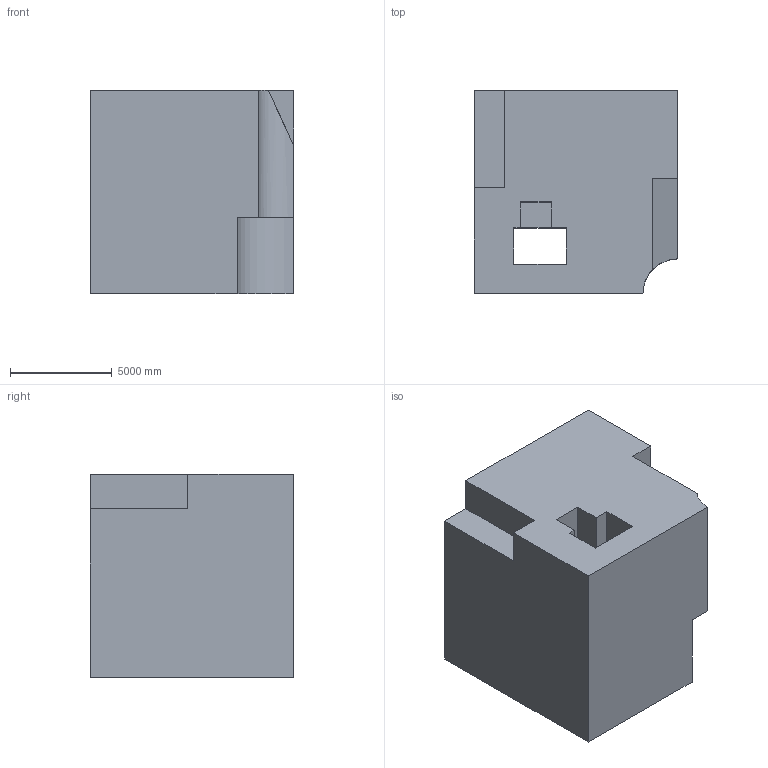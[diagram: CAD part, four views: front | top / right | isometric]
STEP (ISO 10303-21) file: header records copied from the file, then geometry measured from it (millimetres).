
FILE_DESCRIPTION (( 'STEP AP203' ), '1' );
FILE_NAME ('529.STEP', '2022-07-29T11:40:22', ( 'user' ), ( '' ), 'SwSTEP 2.0', 'SolidWorks 2021', '' );
FILE_SCHEMA (( 'CONFIG_CONTROL_DESIGN' ));
Length unit declared in the file: centimetre
Products named in the file (1): 529
Bounding box: 10000 x 10000 x 10000 mm (x, y, z)
Volume: 884454903836.1 mm3; surface area: 678436285.2 mm2
Topology: 1 solids, 1 shells, 22 faces, 60 edges, 40 vertices
Faces by surface type: plane 20, cylinder 2
Entity records: 769 total; most frequent: CARTESIAN_POINT 126, ORIENTED_EDGE 120, DIRECTION 109, EDGE_CURVE 60, LINE 55, VECTOR 55, VERTEX_POINT 40, AXIS2_PLACEMENT_3D 27
